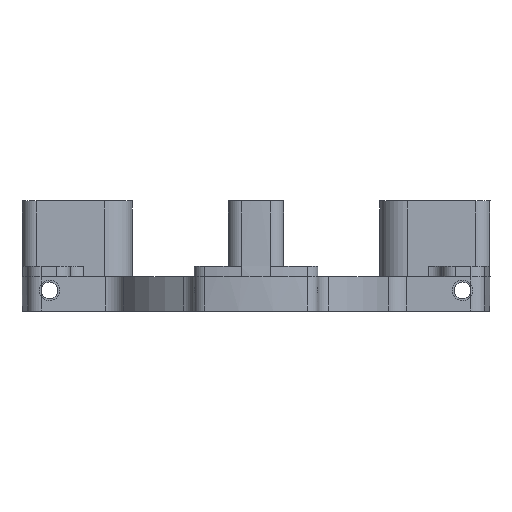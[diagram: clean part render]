
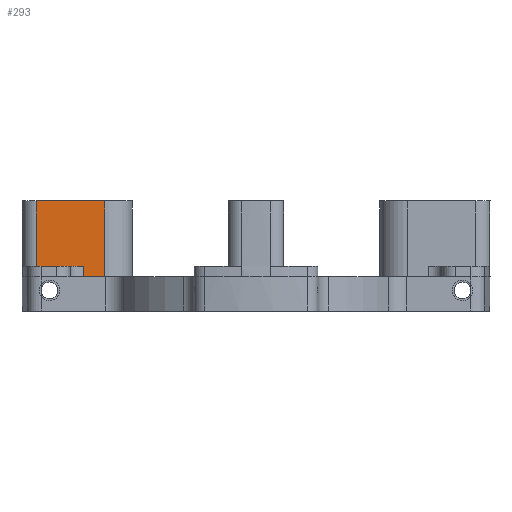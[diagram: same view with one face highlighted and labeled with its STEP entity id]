
A CAD part, front view. The second image highlights one B-rep face of the part: STEP entity #293.
In plain terms, the highlighted planar face has unit normal (0, -1, 0).
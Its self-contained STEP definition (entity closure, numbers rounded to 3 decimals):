
#293=ADVANCED_FACE('',(#575),#2760,.T.);
#575=FACE_OUTER_BOUND('',#868,.F.);
#868=EDGE_LOOP('',(#1473,#1474,#1475,#1476,#1477,#1478,#1479));
#1473=ORIENTED_EDGE('',*,*,#4161,.F.);
#1474=ORIENTED_EDGE('',*,*,#4197,.T.);
#1475=ORIENTED_EDGE('',*,*,#4198,.F.);
#1476=ORIENTED_EDGE('',*,*,#4006,.T.);
#1477=ORIENTED_EDGE('',*,*,#4212,.F.);
#1478=ORIENTED_EDGE('',*,*,#4206,.T.);
#1479=ORIENTED_EDGE('',*,*,#4211,.T.);
#2760=PLANE('',#5745);
#3116=LINE('',#8346,#3520);
#3186=LINE('',#8581,#3590);
#3197=LINE('',#8617,#3601);
#3198=LINE('',#8618,#3602);
#3203=LINE('',#8626,#3607);
#3205=LINE('',#8631,#3609);
#3206=LINE('',#8632,#3610);
#3520=VECTOR('',#6191,4.937);
#3590=VECTOR('',#6399,3.);
#3601=VECTOR('',#6460,1.5);
#3602=VECTOR('',#6461,2.);
#3607=VECTOR('',#6472,9.937);
#3609=VECTOR('',#6480,11.);
#3610=VECTOR('',#6481,9.5);
#4006=EDGE_CURVE('',#5189,#5190,#3116,.T.);
#4161=EDGE_CURVE('',#5243,#5069,#3186,.T.);
#4197=EDGE_CURVE('',#5243,#5051,#3197,.T.);
#4198=EDGE_CURVE('',#5189,#5051,#3198,.T.);
#4206=EDGE_CURVE('',#5044,#5046,#3203,.T.);
#4211=EDGE_CURVE('',#5046,#5069,#3205,.T.);
#4212=EDGE_CURVE('',#5044,#5190,#3206,.T.);
#5044=VERTEX_POINT('',#7650);
#5046=VERTEX_POINT('',#7652);
#5051=VERTEX_POINT('',#7657);
#5069=VERTEX_POINT('',#7675);
#5189=VERTEX_POINT('',#7795);
#5190=VERTEX_POINT('',#7796);
#5243=VERTEX_POINT('',#7849);
#5745=AXIS2_PLACEMENT_3D('',#8945,#6914,#6915);
#6191=DIRECTION('',(-1.,0.,0.));
#6399=DIRECTION('',(1.,0.,0.));
#6460=DIRECTION('',(0.,0.,1.));
#6461=DIRECTION('',(1.,0.,0.));
#6472=DIRECTION('',(1.,0.,0.));
#6480=DIRECTION('',(0.,0.,-1.));
#6481=DIRECTION('',(0.,0.,-1.));
#6914=DIRECTION('',(0.,-1.,0.));
#6915=DIRECTION('',(1.,0.,0.));
#7650=CARTESIAN_POINT('',(252.438,415.252,375.374));
#7652=CARTESIAN_POINT('',(262.375,415.252,375.374));
#7657=CARTESIAN_POINT('',(259.375,415.252,365.874));
#7675=CARTESIAN_POINT('',(262.375,415.252,364.374));
#7795=CARTESIAN_POINT('',(257.375,415.252,365.874));
#7796=CARTESIAN_POINT('',(252.438,415.252,365.874));
#7849=CARTESIAN_POINT('',(259.375,415.252,364.374));
#8346=CARTESIAN_POINT('',(257.375,415.252,365.874));
#8581=CARTESIAN_POINT('',(259.375,415.252,364.374));
#8617=CARTESIAN_POINT('',(259.375,415.252,364.374));
#8618=CARTESIAN_POINT('',(257.375,415.252,365.874));
#8626=CARTESIAN_POINT('',(252.438,415.252,375.374));
#8631=CARTESIAN_POINT('',(262.375,415.252,375.374));
#8632=CARTESIAN_POINT('',(252.438,415.252,375.374));
#8945=CARTESIAN_POINT('',(252.328,415.252,364.264));
